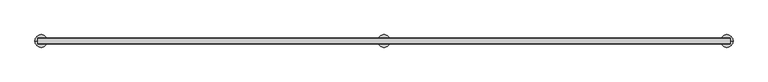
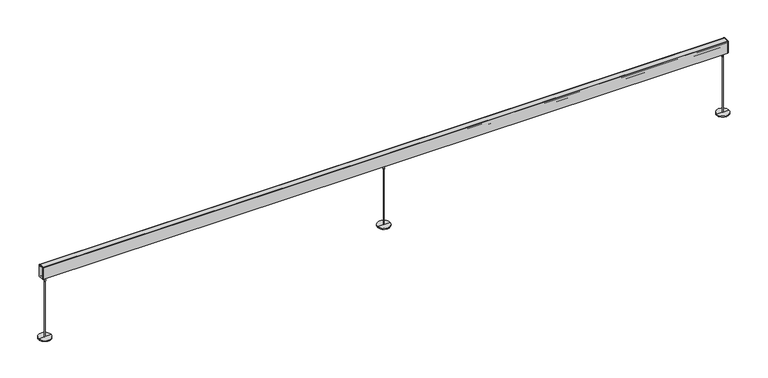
"""IFC4 building model written with IfcOpenShell, lengths in millimetres: light fixture geometry, Lighting_Fixture-Focal_Point-AirCore_Bridge-Seem_1_LED : FSM1SBW125LF30K1CUNVLD1J24_."""

import ifcopenshell
import ifcopenshell.guid

model = None  # the IFC model being written
_history = None  # IfcOwnerHistory: only IFC2X3 demands one
_inside = {}  # id of a spatial element -> (the spatial element, [elements in it])
_under = {}  # id of a project, library or spatial element -> (it, [spatial elements below it])
_declared = {}  # id of a project -> (the project, [libraries it declares])
_typed = {}  # id of a type object -> (the type object, [elements of that type])
_made_of = {}  # id of a material, layer set ... -> (it, [elements and type objects made of it])


def new_model(schema):
    """Start an empty IFC model of exactly this schema.

    Asked for "IFC4X3", IfcOpenShell would pick the latest addendum, in which some entities
    have other attributes; the version numbers below select the first issue.
    IFC2X3 requires an IfcOwnerHistory on every rooted entity: one is made here for all.
    """
    global model, _history
    if schema == "IFC4X3":
        model = ifcopenshell.file(schema_version=(4, 3, 0, 0))
    else:
        model = ifcopenshell.file(schema=schema)
    _inside.clear()
    _under.clear()
    _declared.clear()
    _typed.clear()
    _made_of.clear()
    _history = None
    if model.schema == "IFC2X3":
        org = make("IfcOrganization", Name="unknown")
        user = make(
            "IfcPersonAndOrganization",
            ThePerson=make("IfcPerson", FamilyName="unknown"),
            TheOrganization=org,
        )
        app = make(
            "IfcApplication",
            ApplicationDeveloper=org,
            Version="unknown",
            ApplicationFullName="unknown",
            ApplicationIdentifier="unknown",
        )
        _history = make(
            "IfcOwnerHistory",
            OwningUser=user,
            OwningApplication=app,
            ChangeAction="ADDED",
            CreationDate=0,
        )
    return model


def make(cls, **values):
    """One entity of the class cls with the attributes given. An attribute that is None is left unset."""
    return model.create_entity(
        cls, **{name: value for name, value in values.items() if value is not None}
    )


def rooted(cls, **values):
    """An entity with a GlobalId (a new one), such as an element, a storey or a relation."""
    return make(cls, GlobalId=ifcopenshell.guid.new(), OwnerHistory=_history, **values)


def si_unit(unit_type, name, prefix=None):
    """IfcSIUnit, for example si_unit("LENGTHUNIT", "METRE", prefix="MILLI")."""
    return make("IfcSIUnit", UnitType=unit_type, Prefix=prefix, Name=name)


def assignment(units):
    """IfcUnitAssignment: the units of a project."""
    return None if units is None else make("IfcUnitAssignment", Units=units)


def point(xyz):
    """IfcCartesianPoint."""
    return None if xyz is None else make("IfcCartesianPoint", Coordinates=xyz)


def direction(xyz):
    """IfcDirection."""
    return None if xyz is None else make("IfcDirection", DirectionRatios=xyz)


def frame(location, z_axis=None, x_axis=None):
    """IfcAxis2Placement3D, a coordinate frame: its origin and axes. An axis left out is left unset."""
    return make(
        "IfcAxis2Placement3D",
        Location=point(location),
        Axis=direction(z_axis),
        RefDirection=direction(x_axis),
    )


def origin():
    """The frame at (0, 0, 0) with its axes left unset."""
    return frame((0.0, 0.0, 0.0))


def place(relative_to, where):
    """IfcLocalPlacement: puts the frame where relative to a parent placement (None: the world)."""
    return make(
        "IfcLocalPlacement", PlacementRelTo=relative_to, RelativePlacement=where
    )


def context(
    kind, dimensions, precision=None, world=None, true_north=None, identifier=None
):
    """IfcGeometricRepresentationContext, for example the 3D "Model" context."""
    return make(
        "IfcGeometricRepresentationContext",
        ContextIdentifier=identifier,
        ContextType=kind,
        CoordinateSpaceDimension=dimensions,
        Precision=precision,
        WorldCoordinateSystem=world,
        TrueNorth=true_north,
    )


def project(units=None, contexts=None):
    """IfcProject with its units and contexts."""
    return rooted(
        "IfcProject",
        Name="project",
        RepresentationContexts=contexts,
        UnitsInContext=assignment(units),
    )


def spatial(cls, under=None, at=None, **own):
    """A site, building, storey or space (cls), placed at a placement, below another one or the project."""
    s = rooted(cls, ObjectPlacement=at, **own)
    if under is not None:
        _under.setdefault(under.id(), (under, []))[1].append(s)
    return s


def polyline(points):
    """IfcPolyline through the points."""
    return make("IfcPolyline", Points=[point(p) for p in points])


def circle_curve(where, radius):
    """IfcCircle in the frame where."""
    return make("IfcCircle", Position=where, Radius=radius)


def outline(outer, holes=None, kind="AREA"):
    """IfcArbitraryClosedProfileDef: a profile drawn as a closed curve; with holes, ...WithVoids."""
    if holes is None:
        return make("IfcArbitraryClosedProfileDef", ProfileType=kind, OuterCurve=outer)
    return make(
        "IfcArbitraryProfileDefWithVoids",
        ProfileType=kind,
        OuterCurve=outer,
        InnerCurves=holes,
    )


def extrude(swept, where, along, depth):
    """IfcExtrudedAreaSolid: the profile swept, set in the frame where, extruded along a direction by depth."""
    return make(
        "IfcExtrudedAreaSolid",
        SweptArea=swept,
        Position=where,
        ExtrudedDirection=direction(along),
        Depth=depth,
    )


def faces_of(points, faces, orient=None, outer=None):
    """IfcFace entities. A face is a list of loops; a loop is a list of indices into points, from 0.

    orient and outer hold one flag for each loop. By default every Orientation is true, the
    first loop of a face is its IfcFaceOuterBound and the others are IfcFaceBound.
    """
    made = []
    for i, loops in enumerate(faces):
        bounds = []
        for j, loop in enumerate(loops):
            is_outer = j == 0 if outer is None else outer[i][j]
            bounds.append(
                make(
                    "IfcFaceOuterBound" if is_outer else "IfcFaceBound",
                    Bound=make("IfcPolyLoop", Polygon=[points[k] for k in loop]),
                    Orientation=True if orient is None else orient[i][j],
                )
            )
        made.append(make("IfcFace", Bounds=bounds))
    return made


def faceted_brep(points, faces, orient=None, outer=None, voids=None):
    """IfcFacetedBrep: a solid bounded by flat faces; with voids (closed shells), ...WithVoids."""
    shared = [point(p) for p in points]
    hull = make("IfcClosedShell", CfsFaces=faces_of(shared, faces, orient, outer))
    if voids is None:
        return make("IfcFacetedBrep", Outer=hull)
    return make(
        "IfcFacetedBrepWithVoids",
        Outer=hull,
        Voids=[
            make(cls, CfsFaces=faces_of(shared, fs, o, b)) for cls, fs, o, b in voids
        ],
    )


def shape(context_of_items, identifier, shape_type, items):
    """IfcShapeRepresentation: the items that make up one representation, for example the "Body"."""
    return make(
        "IfcShapeRepresentation",
        ContextOfItems=context_of_items,
        RepresentationIdentifier=identifier,
        RepresentationType=shape_type,
        Items=items,
    )


def source(mapping_origin, context_of_items, identifier, shape_type, items):
    """IfcRepresentationMap: a shape defined once, which mapped items show again and again."""
    return make(
        "IfcRepresentationMap",
        MappingOrigin=mapping_origin,
        MappedRepresentation=shape(context_of_items, identifier, shape_type, items),
    )


def transform(
    local_origin,
    x_axis=None,
    y_axis=None,
    z_axis=None,
    scale=None,
    scale2=None,
    scale3=None,
    uniform=True,
):
    """IfcCartesianTransformationOperator3D, or its non-uniform kind. x_axis, y_axis, z_axis: its Axis1, 2, 3."""
    if uniform:
        return make(
            "IfcCartesianTransformationOperator3D",
            Axis1=direction(x_axis),
            Axis2=direction(y_axis),
            LocalOrigin=point(local_origin),
            Scale=scale,
            Axis3=direction(z_axis),
        )
    return make(
        "IfcCartesianTransformationOperator3DnonUniform",
        Axis1=direction(x_axis),
        Axis2=direction(y_axis),
        LocalOrigin=point(local_origin),
        Scale=scale,
        Axis3=direction(z_axis),
        Scale2=scale2,
        Scale3=scale3,
    )


def mapped(mapping_source, mapping_target):
    """IfcMappedItem: shows the shape of a source again, moved by a transform."""
    return make(
        "IfcMappedItem", MappingSource=mapping_source, MappingTarget=mapping_target
    )


def made_of(thing, what):
    """Note that an element or type object is made of a material, layer set ...; save() writes the relation."""
    if what is not None:
        _made_of.setdefault(what.id(), (what, []))[1].append(thing)
    return thing


def element(
    cls,
    number,
    at=None,
    inside=None,
    cuts=None,
    type_object=None,
    material=None,
    context=None,
    identifier="Body",
    shape_type=None,
    held_by="IfcProductDefinitionShape",
    body=None,
    shapes=None,
    **own,
):
    """One element of the class cls, such as IfcWall. Its Tag is "e" and its number.

    at: its placement. inside: the storey or other place that contains it. cuts: it is an
    opening in that element (IfcRelVoidsElement). A single representation is given by context,
    identifier, shape_type and body (its items); several are given by shapes. held_by: the class
    of the entity that holds the representations. save() writes the other relations.
    """
    e = rooted(cls, Tag="e%d" % number, ObjectPlacement=at, **own)
    if body is not None:
        shapes = [shape(context, identifier, shape_type, body)]
    if shapes is not None:
        e.Representation = make(held_by, Representations=shapes)
    if inside is not None:
        _inside.setdefault(inside.id(), (inside, []))[1].append(e)
    if cuts is not None:
        rooted(
            "IfcRelVoidsElement", RelatingBuildingElement=cuts, RelatedOpeningElement=e
        )
    if type_object is not None:
        _typed.setdefault(type_object.id(), (type_object, []))[1].append(e)
    return made_of(e, material)


def aggregate(whole, parts):
    """IfcRelAggregates: a whole, such as a stair, and the parts it consists of."""
    return rooted("IfcRelAggregates", RelatingObject=whole, RelatedObjects=parts)


def save(model, path):
    """Write the relations noted so far, then the file.

    IfcRelAggregates (storeys below a building ...), IfcRelContainedInSpatialStructure (elements
    in a storey), IfcRelDefinesByType, IfcRelAssociatesMaterial and IfcRelDeclares: one each for
    every whole, place, type object, material and project.
    """
    for whole, parts in _under.values():
        aggregate(whole, parts)
    for where, things in _inside.values():
        rooted(
            "IfcRelContainedInSpatialStructure",
            RelatedElements=things,
            RelatingStructure=where,
        )
    for kind, things in _typed.values():
        rooted("IfcRelDefinesByType", RelatedObjects=things, RelatingType=kind)
    for what, things in _made_of.values():
        rooted("IfcRelAssociatesMaterial", RelatedObjects=things, RelatingMaterial=what)
    for by, libraries in _declared.values():
        rooted("IfcRelDeclares", RelatingContext=by, RelatedDefinitions=libraries)
    model.write(path)


def plane_surface(at):
    """IfcPlane: the flat surface through the origin of the frame at, square to its z axis."""
    return make("IfcPlane", Position=at)


def cylinder_surface(at, radius):
    """IfcCylindricalSurface: all points at the distance radius from the z axis of the frame at."""
    return make("IfcCylindricalSurface", Position=at, Radius=radius)


def advanced_brep(points, edges, surfaces, faces):
    """IfcAdvancedBrep: a solid bounded by faces that lie on surfaces and meet in shared edges.

    An edge is (start, end): straight between two places in points (the first is 0);
    or (start, end, curve); or (start, end, curve, False) where it runs against its curve.
    A face is (place in surfaces, loops), or (place, loops, False) where it looks against
    its surface's normal. A loop lists edges by number (the first is 1), with a minus sign
    where the edge is run from its end to its start. The first loop is the outer one.
    """
    corners = [point(p) for p in points]
    vertices = [make("IfcVertexPoint", VertexGeometry=c) for c in corners]
    made = []
    for start, end, *more in edges:
        made.append(
            make(
                "IfcEdgeCurve",
                EdgeStart=vertices[start],
                EdgeEnd=vertices[end],
                EdgeGeometry=more[0] if more else make("IfcPolyline", Points=[corners[start], corners[end]]),
                SameSense=more[1] if len(more) > 1 else True,
            )
        )
    hull = []
    for where, loops, *sense in faces:
        bounds = []
        for j, loop in enumerate(loops):
            ring = [make("IfcOrientedEdge", EdgeElement=made[abs(k) - 1], Orientation=k > 0) for k in loop]
            bounds.append(
                make(
                    "IfcFaceOuterBound" if j == 0 else "IfcFaceBound",
                    Bound=make("IfcEdgeLoop", EdgeList=ring),
                    Orientation=True,
                )
            )
        hull.append(make("IfcAdvancedFace", Bounds=bounds, FaceSurface=surfaces[where], SameSense=sense[0] if sense else True))
    return make("IfcAdvancedBrep", Outer=make("IfcClosedShell", CfsFaces=hull))


def light_fixture_2e790f0c(model_context):
    return source(origin(), model_context, "Body", "SolidModel", [
        advanced_brep(
        [(2.1602631, 0.0, 6.35), (-2.1602631, 0.0, 6.35), (-2.1602631, 0.0, 426.1929436), (2.1602631, 0.0, 426.1929436), (4.6304584, 0.0, 464.8870305), (-4.6304584, 0.0, 464.8870305), (0.0, 0.0, 464.8870305), (4.6304584, 0.0, 426.1929436), (-4.6304584, 0.0, 426.1929436), (44.45, 0.0, 6.35), (-44.45, 0.0, 6.35), (44.45, 0.0, 0.0), (-44.45, 0.0, 0.0), (0.0, 0.0, 0.0)],
        [
            (0, 1, circle_curve(frame((0.0, 0.0, 6.35), z_axis=(0.0, 0.0, 1.0), x_axis=(-1.0, 0.0, 0.0)), 2.1602631)),
            (1, 2),
            (2, 3, circle_curve(frame((0.0, 0.0, 426.1929436), z_axis=(0.0, 0.0, -1.0), x_axis=(-1.0, 0.0, 0.0)), 2.1602631)),
            (3, 0),
            (1, 0, circle_curve(frame((0.0, 0.0, 6.35), z_axis=(0.0, 0.0, 1.0), x_axis=(-1.0, 0.0, 0.0)), 2.1602631)),
            (3, 2, circle_curve(frame((0.0, 0.0, 426.1929436), z_axis=(0.0, 0.0, -1.0), x_axis=(-1.0, 0.0, 0.0)), 2.1602631)),
            (4, 5, circle_curve(frame((0.0, 0.0, 464.8870305), z_axis=(0.0, 0.0, 1.0), x_axis=(-1.0, 0.0, 0.0)), 4.6304584)),
            (5, 6),
            (6, 4),
            (5, 4, circle_curve(frame((0.0, 0.0, 464.8870305), z_axis=(0.0, 0.0, 1.0), x_axis=(-1.0, 0.0, 0.0)), 4.6304584)),
            (7, 8, circle_curve(frame((0.0, 0.0, 426.1929436), z_axis=(0.0, 0.0, 1.0), x_axis=(-1.0, 0.0, 0.0)), 4.6304584)),
            (8, 5),
            (4, 7),
            (8, 7, circle_curve(frame((0.0, 0.0, 426.1929436), z_axis=(0.0, 0.0, 1.0), x_axis=(-1.0, 0.0, 0.0)), 4.6304584)),
            (2, 8),
            (7, 3),
            (9, 10, circle_curve(frame((0.0, 0.0, 6.35), z_axis=(0.0, 0.0, 1.0), x_axis=(-1.0, 0.0, 0.0)), 44.45)),
            (10, 1),
            (0, 9),
            (10, 9, circle_curve(frame((0.0, 0.0, 6.35), z_axis=(0.0, 0.0, 1.0), x_axis=(-1.0, 0.0, 0.0)), 44.45)),
            (11, 12, circle_curve(frame((0.0, 0.0, 0.0), z_axis=(0.0, 0.0, 1.0), x_axis=(-1.0, 0.0, 0.0)), 44.45)),
            (12, 10),
            (9, 11),
            (12, 11, circle_curve(frame((0.0, 0.0, 0.0), z_axis=(0.0, 0.0, 1.0), x_axis=(-1.0, 0.0, 0.0)), 44.45)),
            (13, 12),
            (11, 13),
        ],
        [
            cylinder_surface(frame((0.0, 0.0, 861.1679436), z_axis=(0.0, 0.0, -1.0), x_axis=(-1.0, 0.0, 0.0)), 2.1602631),
            plane_surface(frame((0.0, 0.0, 464.8870305), z_axis=(0.0, 0.0, 1.0), x_axis=(-1.0, 0.0, 0.0))),
            cylinder_surface(frame((0.0, 0.0, 861.1679436), z_axis=(0.0, 0.0, -1.0), x_axis=(-1.0, 0.0, 0.0)), 4.6304584),
            plane_surface(frame((0.0, 0.0, 426.1929436), z_axis=(0.0, 0.0, -1.0), x_axis=(-1.0, 0.0, 0.0))),
            plane_surface(frame((0.0, 0.0, 6.35), z_axis=(0.0, 0.0, 1.0), x_axis=(-1.0, 0.0, 0.0))),
            cylinder_surface(frame((0.0, 0.0, 861.1679436), z_axis=(0.0, 0.0, -1.0), x_axis=(-1.0, 0.0, 0.0)), 44.45),
            plane_surface(frame((0.0, 0.0, 0.0), z_axis=(0.0, 0.0, -1.0), x_axis=(-1.0, 0.0, 0.0))),
        ],
        [
            (0, [[1, 2, 3, 4]]),
            (0, [[5, -4, 6, -2]]),
            (1, [[7, 8, 9]]),
            (1, [[10, -9, -8]]),
            (2, [[11, 12, -7, 13]]),
            (2, [[14, -13, -10, -12]]),
            (3, [[-3, 15, -11, 16]]),
            (3, [[-6, -16, -14, -15]]),
            (4, [[17, 18, -1, 19]]),
            (4, [[20, -19, -5, -18]]),
            (5, [[21, 22, -17, 23]]),
            (5, [[24, -23, -20, -22]]),
            (6, [[25, -21, 26]]),
            (6, [[-26, -24, -25]]),
        ],
    ),
        advanced_brep(
        [(2415.1602631, 0.0, 6.35), (2410.8397369, 0.0, 6.35), (2410.8397369, 0.0, 426.1929436), (2415.1602631, 0.0, 426.1929436), (2417.6304584, 0.0, 464.8870305), (2408.3695416, 0.0, 464.8870305), (2413.0, 0.0, 464.8870305), (2417.6304584, 0.0, 426.1929436), (2408.3695416, 0.0, 426.1929436), (2457.45, 0.0, 6.35), (2368.55, 0.0, 6.35), (2457.45, 0.0, 0.0), (2368.55, 0.0, 0.0), (2413.0, 0.0, 0.0)],
        [
            (0, 1, circle_curve(frame((2413.0, 0.0, 6.35), z_axis=(0.0, 0.0, 1.0), x_axis=(-1.0, 0.0, 0.0)), 2.1602631)),
            (1, 2),
            (2, 3, circle_curve(frame((2413.0, 0.0, 426.1929436), z_axis=(0.0, 0.0, -1.0), x_axis=(-1.0, 0.0, 0.0)), 2.1602631)),
            (3, 0),
            (1, 0, circle_curve(frame((2413.0, 0.0, 6.35), z_axis=(0.0, 0.0, 1.0), x_axis=(-1.0, 0.0, 0.0)), 2.1602631)),
            (3, 2, circle_curve(frame((2413.0, 0.0, 426.1929436), z_axis=(0.0, 0.0, -1.0), x_axis=(-1.0, 0.0, 0.0)), 2.1602631)),
            (4, 5, circle_curve(frame((2413.0, 0.0, 464.8870305), z_axis=(0.0, 0.0, 1.0), x_axis=(-1.0, 0.0, 0.0)), 4.6304584)),
            (5, 6),
            (6, 4),
            (5, 4, circle_curve(frame((2413.0, 0.0, 464.8870305), z_axis=(0.0, 0.0, 1.0), x_axis=(-1.0, 0.0, 0.0)), 4.6304584)),
            (7, 8, circle_curve(frame((2413.0, 0.0, 426.1929436), z_axis=(0.0, 0.0, 1.0), x_axis=(-1.0, 0.0, 0.0)), 4.6304584)),
            (8, 5),
            (4, 7),
            (8, 7, circle_curve(frame((2413.0, 0.0, 426.1929436), z_axis=(0.0, 0.0, 1.0), x_axis=(-1.0, 0.0, 0.0)), 4.6304584)),
            (2, 8),
            (7, 3),
            (9, 10, circle_curve(frame((2413.0, 0.0, 6.35), z_axis=(0.0, 0.0, 1.0), x_axis=(-1.0, 0.0, 0.0)), 44.45)),
            (10, 1),
            (0, 9),
            (10, 9, circle_curve(frame((2413.0, 0.0, 6.35), z_axis=(0.0, 0.0, 1.0), x_axis=(-1.0, 0.0, 0.0)), 44.45)),
            (11, 12, circle_curve(frame((2413.0, 0.0, 0.0), z_axis=(0.0, 0.0, 1.0), x_axis=(-1.0, 0.0, 0.0)), 44.45)),
            (12, 10),
            (9, 11),
            (12, 11, circle_curve(frame((2413.0, 0.0, 0.0), z_axis=(0.0, 0.0, 1.0), x_axis=(-1.0, 0.0, 0.0)), 44.45)),
            (13, 12),
            (11, 13),
        ],
        [
            cylinder_surface(frame((2413.0, 0.0, 861.1679436), z_axis=(0.0, 0.0, -1.0), x_axis=(-1.0, 0.0, 0.0)), 2.1602631),
            plane_surface(frame((2413.0, 0.0, 464.8870305), z_axis=(0.0, 0.0, 1.0), x_axis=(-1.0, 0.0, 0.0))),
            cylinder_surface(frame((2413.0, 0.0, 861.1679436), z_axis=(0.0, 0.0, -1.0), x_axis=(-1.0, 0.0, 0.0)), 4.6304584),
            plane_surface(frame((2413.0, 0.0, 426.1929436), z_axis=(0.0, 0.0, -1.0), x_axis=(-1.0, 0.0, 0.0))),
            plane_surface(frame((2413.0, 0.0, 6.35), z_axis=(0.0, 0.0, 1.0), x_axis=(-1.0, 0.0, 0.0))),
            cylinder_surface(frame((2413.0, 0.0, 861.1679436), z_axis=(0.0, 0.0, -1.0), x_axis=(-1.0, 0.0, 0.0)), 44.45),
            plane_surface(frame((2413.0, 0.0, 0.0), z_axis=(0.0, 0.0, -1.0), x_axis=(-1.0, 0.0, 0.0))),
        ],
        [
            (0, [[1, 2, 3, 4]]),
            (0, [[5, -4, 6, -2]]),
            (1, [[7, 8, 9]]),
            (1, [[10, -9, -8]]),
            (2, [[11, 12, -7, 13]]),
            (2, [[14, -13, -10, -12]]),
            (3, [[-3, 15, -11, 16]]),
            (3, [[-6, -16, -14, -15]]),
            (4, [[17, 18, -1, 19]]),
            (4, [[20, -19, -5, -18]]),
            (5, [[21, 22, -17, 23]]),
            (5, [[24, -23, -20, -22]]),
            (6, [[25, -21, 26]]),
            (6, [[-26, -24, -25]]),
        ],
    ),
        faceted_brep([(-2435.7759239, 18.258255, 531.2980748), (-2435.7759239, 15.7110021, 527.9177561), (-2435.7759239, 14.4431682, 528.8731375), (-2435.7759239, 17.0442657, 532.3249104), (-2435.7759239, 13.8854155, 534.1486734), (-2435.7759239, 16.1364037, 540.0126981), (-2435.7759239, 17.464505, 540.0126981), (-2435.7759239, 17.464505, 541.8092414), (-2435.7759239, -17.464505, 541.8092414), (-2435.7759239, -17.464505, 540.0126981), (-2435.7759239, -16.1364037, 540.0126981), (-2435.7759239, -13.8854155, 534.1486734), (-2435.7759239, -17.0442657, 532.3249104), (-2435.7759239, -14.4431682, 528.8731375), (-2435.7759239, -15.7024761, 527.9241809), (-2435.7759239, -18.258255, 531.315814), (-2435.7759239, -18.258255, 533.4571004), (-2435.7759239, -15.8533687, 534.8455621), (-2435.7759239, -17.2274622, 538.4251981), (-2435.7759239, -19.052005, 538.4251981), (-2435.7759239, -19.052005, 546.1), (-2435.7759239, 19.052005, 546.1), (-2435.7759239, 19.052005, 538.4251981), (-2435.7759239, 17.2274622, 538.4251981), (-2435.7759239, 15.8533687, 534.8455621), (-2435.7759239, 18.258255, 533.4571004), (2435.7759239, 18.258255, 531.2980748), (2435.7759239, 18.258255, 533.4571004), (2435.7759239, 15.8533687, 534.8455621), (2435.7759239, 17.2274622, 538.4251981), (2435.7759239, 19.052005, 538.4251981), (2435.7759239, 19.052005, 546.1), (2435.7759239, -19.052005, 546.1), (2435.7759239, -19.052005, 538.4251981), (2435.7759239, -17.2274622, 538.4251981), (2435.7759239, -15.8533687, 534.8455621), (2435.7759239, -18.258255, 533.4571004), (2435.7759239, -18.258255, 531.315814), (2435.7759239, -15.7024761, 527.9241809), (2435.7759239, -14.4431682, 528.8731375), (2435.7759239, -17.0442657, 532.3249104), (2435.7759239, -13.8854155, 534.1486734), (2435.7759239, -16.1364037, 540.0126981), (2435.7759239, -17.464505, 540.0126981), (2435.7759239, -17.464505, 541.8092414), (2435.7759239, 17.464505, 541.8092414), (2435.7759239, 17.464505, 540.0126981), (2435.7759239, 16.1364037, 540.0126981), (2435.7759239, 13.8854155, 534.1486734), (2435.7759239, 17.0442657, 532.3249104), (2435.7759239, 14.4431682, 528.8731375), (2435.7759239, 15.7110021, 527.9177561), (2434.1726379, 17.464505, 541.8092414), (2434.1726379, 17.464505, 544.5125), (-2434.1726379, 17.464505, 544.5125), (-2434.1726379, 17.464505, 541.8092414), (2434.1726379, -17.464505, 544.5125), (-2434.1726379, -17.464505, 544.5125), (-2434.1726379, -17.464505, 541.8092414), (2434.1726379, -17.464505, 541.8092414), (2434.1726379, -19.052005, 546.1), (-2434.1726379, -19.052005, 546.1), (2434.1726379, 19.052005, 546.1), (-2434.1726379, 19.052005, 546.1)], [[[0, 1, 2, 3, 4, 5, 6, 7, 8, 9, 10, 11, 12, 13, 14, 15, 16, 17, 18, 19, 20, 21, 22, 23, 24, 25]], [[26, 27, 28, 29, 30, 31, 32, 33, 34, 35, 36, 37, 38, 39, 40, 41, 42, 43, 44, 45, 46, 47, 48, 49, 50, 51]], [[1, 0, 26, 51]], [[2, 1, 51, 50]], [[3, 2, 50, 49]], [[4, 3, 49, 48]], [[5, 4, 48, 47]], [[6, 5, 47, 46]], [[6, 46, 45, 52, 53, 54, 55, 7]], [[54, 53, 56, 57]], [[43, 9, 8, 58, 57, 56, 59, 44]], [[10, 9, 43, 42]], [[11, 10, 42, 41]], [[12, 11, 41, 40]], [[13, 12, 40, 39]], [[14, 13, 39, 38]], [[15, 14, 38, 37]], [[16, 15, 37, 36]], [[17, 16, 36, 35]], [[18, 17, 35, 34]], [[19, 18, 34, 33]], [[20, 19, 33, 32, 60, 61]], [[21, 20, 61, 60, 32, 31, 62, 63]], [[31, 30, 22, 21, 63, 62]], [[23, 22, 30, 29]], [[24, 23, 29, 28]], [[25, 24, 28, 27]], [[0, 25, 27, 26]], [[8, 7, 55, 58]], [[45, 44, 59, 52]], [[58, 55, 54, 57]], [[52, 59, 56, 53]]]),
        extrude(outline(polyline([(2438.4, 21.2328125), (2438.4, -21.2328125), (2435.7759239, -21.2328125), (2435.7759239, 21.2328125), (2438.4, 21.2328125)])), frame((0.0, 0.0, 457.2), z_axis=(0.0, 0.0, 1.0), x_axis=(1.0, 0.0, 0.0)), (0.0, 0.0, 1.0), 88.9),
        extrude(outline(polyline([(-2438.4, 21.2328125), (-2435.7759239, 21.2328125), (-2435.7759239, -21.2328125), (-2438.4, -21.2328125), (-2438.4, 21.2328125)])), frame((0.0, 0.0, 457.2), z_axis=(0.0, 0.0, 1.0), x_axis=(1.0, 0.0, 0.0)), (0.0, 0.0, 1.0), 88.9),
        extrude(outline(polyline([(21.2328125, 546.1), (21.2328125, 457.2), (19.5658437, 457.2), (16.6238378, 459.2821699), (17.4679179, 460.4748144), (19.1530671, 459.2821699), (19.1530671, 462.8558491), (-19.1530671, 462.8558491), (-19.1530671, 459.2821699), (-17.4679179, 460.4748144), (-16.6238378, 459.2821699), (-19.5658437, 457.2), (-21.2328125, 457.2), (-21.2328125, 546.1), (-19.052005, 546.1), (-19.052005, 514.8378262), (-13.3446628, 512.0541694), (-16.5752011, 505.4305842), (-19.052005, 505.4305842), (-19.052005, 466.4340085), (-17.489624, 465.1230152), (-11.6590079, 465.1230152), (-11.6590079, 470.2953899), (-10.1171022, 471.8372956), (-6.1086881, 471.8372956), (-4.5777065, 470.306314), (-4.5777065, 465.1230152), (-1.2903926, 465.1230152), (-1.2903926, 471.5573244), (1.2903926, 471.5573244), (1.2903926, 465.1230152), (4.5777065, 465.1230152), (4.5777065, 470.306314), (6.1086881, 471.8372956), (10.1171022, 471.8372956), (11.6590079, 470.2953899), (11.6590079, 465.1230152), (17.489624, 465.1230152), (19.052005, 466.4340085), (19.052005, 505.4305842), (16.5752011, 505.4305842), (13.3446628, 512.0541694), (19.052005, 514.8378262), (19.052005, 546.1), (21.2328125, 546.1)])), frame((-2435.7759239, 0.0, 0.0), z_axis=(1.0, 0.0, 0.0), x_axis=(0.0, 1.0, 0.0)), (0.0, 0.0, 1.0), 4871.5518478),
        extrude(outline(polyline([(16.2455373, 534.6191435), (17.7983995, 537.3087796), (18.4858071, 536.9119046), (17.32982, 534.9096761), (19.052005, 533.9153722), (19.052005, 514.8378262), (13.3446628, 512.0541694), (-13.3446628, 512.0541694), (-19.052005, 514.8378262), (-19.052005, 533.9153722), (-17.32982, 534.9096761), (-18.4858071, 536.9119046), (-17.7983995, 537.3087796), (-16.2455373, 534.6191435), (-18.258255, 533.4571004), (-18.258255, 515.3338163), (-13.1614111, 512.8479194), (13.1614111, 512.8479194), (18.258255, 515.3338163), (18.258255, 533.4571004), (16.2455373, 534.6191435)])), frame((-2435.7759239, 0.0, 0.0), z_axis=(1.0, 0.0, 0.0), x_axis=(0.0, 1.0, 0.0)), (0.0, 0.0, 1.0), 4871.5518478),
        advanced_brep(
        [(-2410.8397369, 0.0, 6.35), (-2415.1602631, 0.0, 6.35), (-2415.1602631, 0.0, 426.1929436), (-2410.8397369, 0.0, 426.1929436), (-2408.3695416, 0.0, 464.8870305), (-2417.6304584, 0.0, 464.8870305), (-2413.0, 0.0, 464.8870305), (-2408.3695416, 0.0, 426.1929436), (-2417.6304584, 0.0, 426.1929436), (-2368.55, 0.0, 6.35), (-2457.45, 0.0, 6.35), (-2368.55, 0.0, 0.0), (-2457.45, 0.0, 0.0), (-2413.0, 0.0, 0.0)],
        [
            (0, 1, circle_curve(frame((-2413.0, 0.0, 6.35), z_axis=(0.0, 0.0, 1.0), x_axis=(-1.0, 0.0, 0.0)), 2.1602631)),
            (1, 2),
            (2, 3, circle_curve(frame((-2413.0, 0.0, 426.1929436), z_axis=(0.0, 0.0, -1.0), x_axis=(-1.0, 0.0, 0.0)), 2.1602631)),
            (3, 0),
            (1, 0, circle_curve(frame((-2413.0, 0.0, 6.35), z_axis=(0.0, 0.0, 1.0), x_axis=(-1.0, 0.0, 0.0)), 2.1602631)),
            (3, 2, circle_curve(frame((-2413.0, 0.0, 426.1929436), z_axis=(0.0, 0.0, -1.0), x_axis=(-1.0, 0.0, 0.0)), 2.1602631)),
            (4, 5, circle_curve(frame((-2413.0, 0.0, 464.8870305), z_axis=(0.0, 0.0, 1.0), x_axis=(-1.0, 0.0, 0.0)), 4.6304584)),
            (5, 6),
            (6, 4),
            (5, 4, circle_curve(frame((-2413.0, 0.0, 464.8870305), z_axis=(0.0, 0.0, 1.0), x_axis=(-1.0, 0.0, 0.0)), 4.6304584)),
            (7, 8, circle_curve(frame((-2413.0, 0.0, 426.1929436), z_axis=(0.0, 0.0, 1.0), x_axis=(-1.0, 0.0, 0.0)), 4.6304584)),
            (8, 5),
            (4, 7),
            (8, 7, circle_curve(frame((-2413.0, 0.0, 426.1929436), z_axis=(0.0, 0.0, 1.0), x_axis=(-1.0, 0.0, 0.0)), 4.6304584)),
            (2, 8),
            (7, 3),
            (9, 10, circle_curve(frame((-2413.0, 0.0, 6.35), z_axis=(0.0, 0.0, 1.0), x_axis=(-1.0, 0.0, 0.0)), 44.45)),
            (10, 1),
            (0, 9),
            (10, 9, circle_curve(frame((-2413.0, 0.0, 6.35), z_axis=(0.0, 0.0, 1.0), x_axis=(-1.0, 0.0, 0.0)), 44.45)),
            (11, 12, circle_curve(frame((-2413.0, 0.0, 0.0), z_axis=(0.0, 0.0, 1.0), x_axis=(-1.0, 0.0, 0.0)), 44.45)),
            (12, 10),
            (9, 11),
            (12, 11, circle_curve(frame((-2413.0, 0.0, 0.0), z_axis=(0.0, 0.0, 1.0), x_axis=(-1.0, 0.0, 0.0)), 44.45)),
            (13, 12),
            (11, 13),
        ],
        [
            cylinder_surface(frame((-2413.0, 0.0, 861.1679436), z_axis=(0.0, 0.0, -1.0), x_axis=(-1.0, 0.0, 0.0)), 2.1602631),
            plane_surface(frame((-2413.0, 0.0, 464.8870305), z_axis=(0.0, 0.0, 1.0), x_axis=(-1.0, 0.0, 0.0))),
            cylinder_surface(frame((-2413.0, 0.0, 861.1679436), z_axis=(0.0, 0.0, -1.0), x_axis=(-1.0, 0.0, 0.0)), 4.6304584),
            plane_surface(frame((-2413.0, 0.0, 426.1929436), z_axis=(0.0, 0.0, -1.0), x_axis=(-1.0, 0.0, 0.0))),
            plane_surface(frame((-2413.0, 0.0, 6.35), z_axis=(0.0, 0.0, 1.0), x_axis=(-1.0, 0.0, 0.0))),
            cylinder_surface(frame((-2413.0, 0.0, 861.1679436), z_axis=(0.0, 0.0, -1.0), x_axis=(-1.0, 0.0, 0.0)), 44.45),
            plane_surface(frame((-2413.0, 0.0, 0.0), z_axis=(0.0, 0.0, -1.0), x_axis=(-1.0, 0.0, 0.0))),
        ],
        [
            (0, [[1, 2, 3, 4]]),
            (0, [[5, -4, 6, -2]]),
            (1, [[7, 8, 9]]),
            (1, [[10, -9, -8]]),
            (2, [[11, 12, -7, 13]]),
            (2, [[14, -13, -10, -12]]),
            (3, [[-3, 15, -11, 16]]),
            (3, [[-6, -16, -14, -15]]),
            (4, [[17, 18, -1, 19]]),
            (4, [[20, -19, -5, -18]]),
            (5, [[21, 22, -17, 23]]),
            (5, [[24, -23, -20, -22]]),
            (6, [[25, -21, 26]]),
            (6, [[-26, -24, -25]]),
        ],
    ),
    ])


if __name__ == "__main__":
    model = new_model("IFC4")
    model_context = context("Model", 3, world=origin())
    ifc_project = project(units=[si_unit("LENGTHUNIT", "METRE", prefix="MILLI")], contexts=[model_context])
    site = spatial("IfcSite", under=ifc_project)
    building = spatial("IfcBuilding", under=site)
    placement = place(None, origin())
    light_fixture_shape = light_fixture_2e790f0c(model_context)
    element("IfcLightFixture", 1, ObjectType="Lighting_Fixture-Focal_Point-AirCore_Bridge-Seem_1_LED : FSM1SBW125LF30K1CUNVLD1J24_", at=placement, inside=building, context=model_context, shape_type="MappedRepresentation", body=[
        mapped(light_fixture_shape, transform((0.0, 0.0, 0.0), x_axis=(1.0, 0.0, 0.0), y_axis=(0.0, 1.0, 0.0), z_axis=(0.0, 0.0, 1.0))),
    ])
    save(model, "model.ifc")
